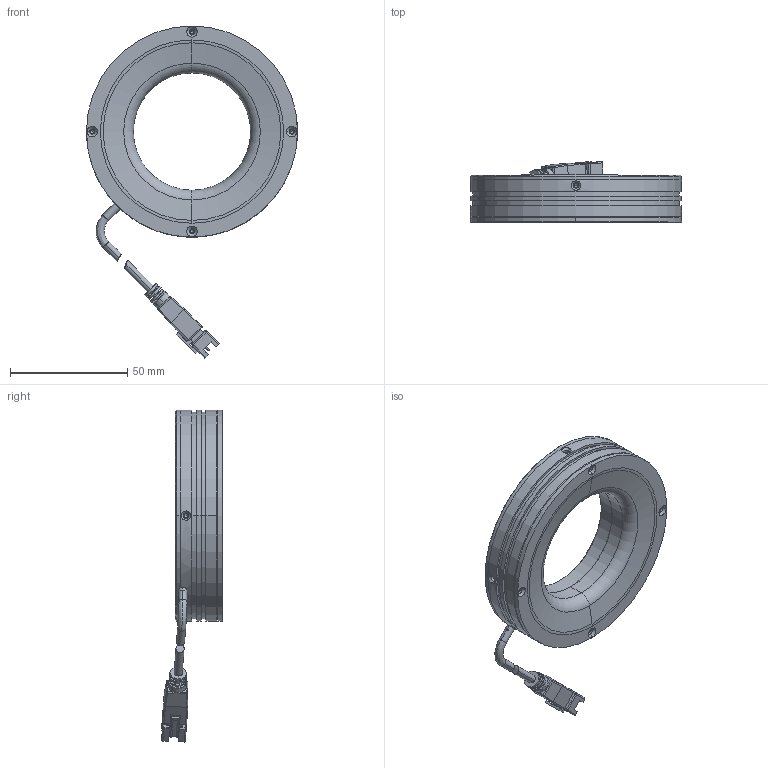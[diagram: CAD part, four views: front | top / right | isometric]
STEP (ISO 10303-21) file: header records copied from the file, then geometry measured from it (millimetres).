
FILE_DESCRIPTION (( 'STEP AP203' ), '1' );
FILE_NAME ('P-RL-90-80-00.STEP', '2026-03-13T08:16:56', ( '' ), ( '' ), 'SwSTEP 2.0', 'SolidWorks 2022', '' );
FILE_SCHEMA (( 'CONFIG_CONTROL_DESIGN' ));
Length unit declared in the file: millimetre
Products named in the file (6): P-RL-90-80-001; P-RL-90-80-002; 光源线; P-RL-90-80-00; 9080灯珠-00; DFP-RL-90-80
Assembly tree (5 placements, depth 2):
  P-RL-90-80-00
    DFP-RL-90-80
    P-RL-90-80-001
    P-RL-90-80-002
    9080灯珠-00
    光源线
Bounding box: 90 x 25.89 x 141.51 mm (x, y, z)
Volume: 50252.1 mm3; surface area: 44131.2 mm2
Topology: 7 solids, 7 shells, 387 faces, 949 edges, 564 vertices
Faces by surface type: plane 136, cylinder 135, cone 72, torus 24, bspline 20
Entity records: 12845 total; most frequent: CARTESIAN_POINT 3298, DIRECTION 1899, ORIENTED_EDGE 1826, EDGE_CURVE 913, AXIS2_PLACEMENT_3D 713, VERTEX_POINT 564, LINE 473, VECTOR 473
